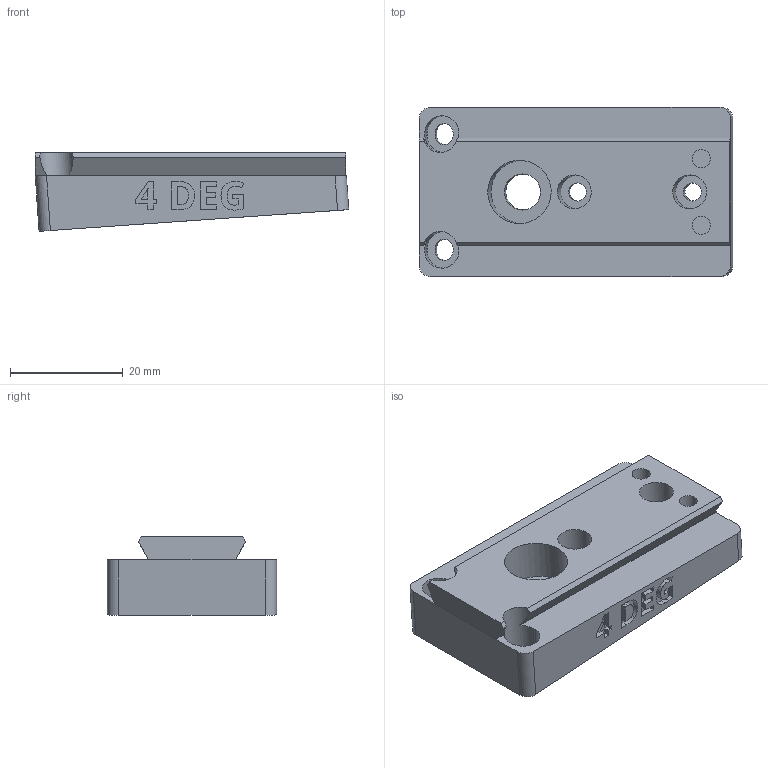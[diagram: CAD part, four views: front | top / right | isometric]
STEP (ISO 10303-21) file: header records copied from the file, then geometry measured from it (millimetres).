
FILE_DESCRIPTION(/* description */ ('STEP AP242 Edition 2','CAx-IF Rec.Pracs.---Representation and Presentation of Product Manufacturing Information (PMI)---4.0---2014-10-13','CAx-IF Rec.Pracs.---3D Tessellated Geometry---0.4---2014-09-14','2;1','CAx-IF Rec.Pracs.---User Defined Attributes---1.5---2016-08-15'),/* implementation_level */ '2;1');
FILE_NAME(/* name */ 'Camera Wedges - CAMERA MOUNTING WEDGE, POS, 4 DEG',/* time_stamp */ '2026-07-08T20:40:15Z',/* author */ (''),/* organization */ (''),/* preprocessor_version */ 'ST-DEVELOPER v20',/* originating_system */ 'ONSHAPE BY PTC INC, 1.217',/* authorisation */ ' ');
FILE_SCHEMA (('AP242_MANAGED_MODEL_BASED_3D_ENGINEERING_MIM_LF { 1 0 10303 442 3 1 4 }'));
Length unit declared in the file: metre
Products named in the file (1): CAMERA MOUNTING WEDGE, POS, 4 DEG
Bounding box: 55.55 x 30 x 13.92 mm (x, y, z)
Volume: 14102.3 mm3; surface area: 6699.8 mm2
Topology: 1 solids, 1 shells, 211 faces, 574 edges, 383 vertices
Faces by surface type: plane 141, cylinder 42, bspline 28
Full cylindrical faces by diameter (mm): 3.2 x4, 6 x2, 6.4 x1, 11.2 x1
Entity records: 6699 total; most frequent: CARTESIAN_POINT 1463, ORIENTED_EDGE 1126, DIRECTION 971, EDGE_CURVE 563, LINE 411, VECTOR 411, VERTEX_POINT 380, AXIS2_PLACEMENT_3D 280
